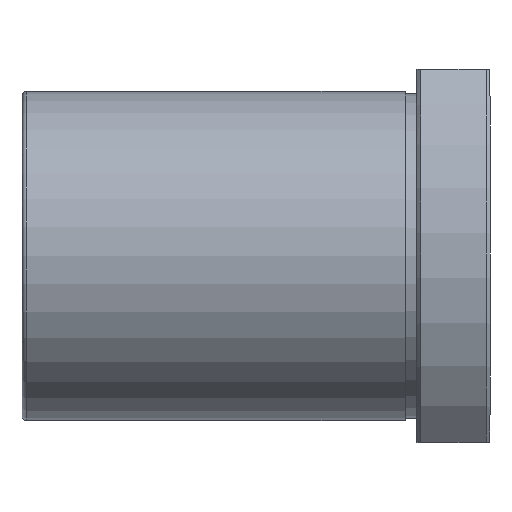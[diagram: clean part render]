
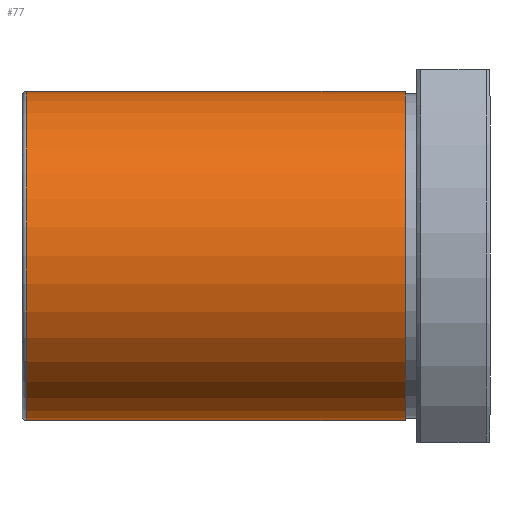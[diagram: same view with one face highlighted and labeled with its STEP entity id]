
A CAD part, top view. The second image highlights one B-rep face of the part: STEP entity #77.
In plain terms, the highlighted cylindrical face has radius 22.5 mm (diameter 45 mm), a full revolution.
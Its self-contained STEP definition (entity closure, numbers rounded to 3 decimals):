
#77=ADVANCED_FACE('',(#108,#109),#110,.T.);
#108=FACE_OUTER_BOUND('',#192,.T.);
#109=FACE_OUTER_BOUND('',#193,.T.);
#110=CYLINDRICAL_SURFACE('',#194,22.5);
#192=EDGE_LOOP('',(#290));
#193=EDGE_LOOP('',(#291));
#194=AXIS2_PLACEMENT_3D('',#292,#293,#294);
#290=ORIENTED_EDGE('',*,*,#461,.F.);
#291=ORIENTED_EDGE('',*,*,#462,.T.);
#292=CARTESIAN_POINT('',(-37.5,0.0,0.));
#293=DIRECTION('',(-1.0,-0.0,0.));
#294=DIRECTION('',(0.0,1.0,0.0));
#461=EDGE_CURVE('',#518,#518,#519,.T.);
#462=EDGE_CURVE('',#520,#520,#521,.T.);
#518=VERTEX_POINT('',#623);
#519=CIRCLE('',#624,22.5);
#520=VERTEX_POINT('',#625);
#521=CIRCLE('',#626,22.5);
#623=CARTESIAN_POINT('',(-63.4,22.5,0.));
#624=AXIS2_PLACEMENT_3D('',#711,#712,#713);
#625=CARTESIAN_POINT('',(-11.6,22.5,0.));
#626=AXIS2_PLACEMENT_3D('',#714,#715,#716);
#711=CARTESIAN_POINT('',(-63.4,0.0,0.));
#712=DIRECTION('',(-1.0,0.0,0.));
#713=DIRECTION('',(0.0,1.0,0.0));
#714=CARTESIAN_POINT('',(-11.6,0.0,0.));
#715=DIRECTION('',(-1.0,0.0,0.));
#716=DIRECTION('',(0.0,1.0,0.0));
